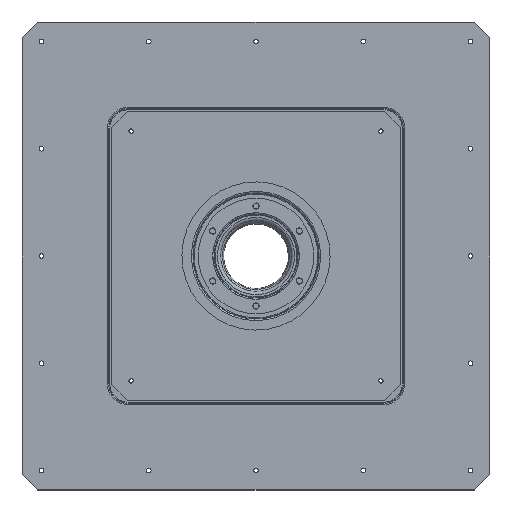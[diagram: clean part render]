
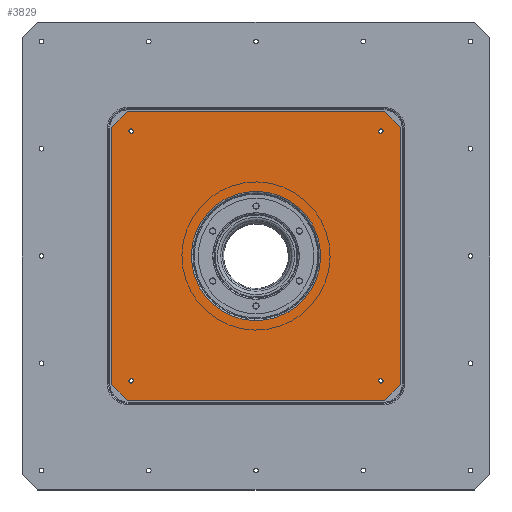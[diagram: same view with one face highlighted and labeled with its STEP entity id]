
A CAD part, top view. The second image highlights one B-rep face of the part: STEP entity #3829.
In plain terms, the highlighted planar face has unit normal (0, 0, 1).
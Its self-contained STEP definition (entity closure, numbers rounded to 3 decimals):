
#197=LINE('',#5661,#341);
#201=LINE('',#5669,#345);
#206=LINE('',#5678,#350);
#209=LINE('',#5684,#353);
#210=LINE('',#5687,#354);
#215=LINE('',#5696,#359);
#218=LINE('',#5702,#362);
#219=LINE('',#5704,#363);
#341=VECTOR('',#4571,330.);
#345=VECTOR('',#4577,28.284);
#350=VECTOR('',#4584,330.);
#353=VECTOR('',#4589,28.284);
#354=VECTOR('',#4592,330.);
#359=VECTOR('',#4599,28.284);
#362=VECTOR('',#4604,330.);
#363=VECTOR('',#4607,28.284);
#499=PLANE('',#4154);
#638=FACE_BOUND('',#1193,.T.);
#639=FACE_BOUND('',#1194,.T.);
#640=FACE_BOUND('',#1195,.T.);
#641=FACE_BOUND('',#1196,.T.);
#642=FACE_BOUND('',#1197,.T.);
#897=FACE_OUTER_BOUND('',#1192,.T.);
#1192=EDGE_LOOP('',(#2755,#2756,#2757,#2758,#2759,#2760,#2761,#2762));
#1193=EDGE_LOOP('',(#2763));
#1194=EDGE_LOOP('',(#2764));
#1195=EDGE_LOOP('',(#2765));
#1196=EDGE_LOOP('',(#2766));
#1197=EDGE_LOOP('',(#2767));
#1642=CIRCLE('',#4085,82.824);
#1646=CIRCLE('',#4099,3.);
#1648=CIRCLE('',#4102,3.);
#1650=CIRCLE('',#4105,3.);
#1652=CIRCLE('',#4108,3.);
#1880=VERTEX_POINT('',#5651);
#1883=VERTEX_POINT('',#5659);
#1884=VERTEX_POINT('',#5660);
#1887=VERTEX_POINT('',#5668);
#1890=VERTEX_POINT('',#5676);
#1892=VERTEX_POINT('',#5682);
#1893=VERTEX_POINT('',#5686);
#1896=VERTEX_POINT('',#5694);
#1898=VERTEX_POINT('',#5700);
#1900=VERTEX_POINT('',#5709);
#1902=VERTEX_POINT('',#5714);
#1904=VERTEX_POINT('',#5719);
#1906=VERTEX_POINT('',#5724);
#2226=EDGE_CURVE('',#1880,#1880,#1642,.T.);
#2229=EDGE_CURVE('',#1883,#1884,#197,.T.);
#2233=EDGE_CURVE('',#1884,#1887,#201,.T.);
#2238=EDGE_CURVE('',#1887,#1890,#206,.T.);
#2241=EDGE_CURVE('',#1890,#1892,#209,.T.);
#2242=EDGE_CURVE('',#1892,#1893,#210,.T.);
#2247=EDGE_CURVE('',#1893,#1896,#215,.T.);
#2250=EDGE_CURVE('',#1896,#1898,#218,.T.);
#2251=EDGE_CURVE('',#1898,#1883,#219,.T.);
#2254=EDGE_CURVE('',#1900,#1900,#1646,.T.);
#2256=EDGE_CURVE('',#1902,#1902,#1648,.T.);
#2258=EDGE_CURVE('',#1904,#1904,#1650,.T.);
#2260=EDGE_CURVE('',#1906,#1906,#1652,.T.);
#2755=ORIENTED_EDGE('',*,*,#2229,.T.);
#2756=ORIENTED_EDGE('',*,*,#2233,.T.);
#2757=ORIENTED_EDGE('',*,*,#2238,.T.);
#2758=ORIENTED_EDGE('',*,*,#2241,.T.);
#2759=ORIENTED_EDGE('',*,*,#2242,.T.);
#2760=ORIENTED_EDGE('',*,*,#2247,.T.);
#2761=ORIENTED_EDGE('',*,*,#2250,.T.);
#2762=ORIENTED_EDGE('',*,*,#2251,.T.);
#2763=ORIENTED_EDGE('',*,*,#2260,.F.);
#2764=ORIENTED_EDGE('',*,*,#2258,.F.);
#2765=ORIENTED_EDGE('',*,*,#2256,.F.);
#2766=ORIENTED_EDGE('',*,*,#2254,.F.);
#2767=ORIENTED_EDGE('',*,*,#2226,.F.);
#3829=ADVANCED_FACE('',(#897,#638,#639,#640,#641,#642),#499,.T.);
#4085=AXIS2_PLACEMENT_3D('',#5652,#4561,#4562);
#4099=AXIS2_PLACEMENT_3D('',#5710,#4613,#4614);
#4102=AXIS2_PLACEMENT_3D('',#5715,#4619,#4620);
#4105=AXIS2_PLACEMENT_3D('',#5720,#4625,#4626);
#4108=AXIS2_PLACEMENT_3D('',#5725,#4631,#4632);
#4154=AXIS2_PLACEMENT_3D('',#5796,#4723,#4724);
#4561=DIRECTION('center_axis',(0.,0.,
1.));
#4562=DIRECTION('ref_axis',(-0.479,0.878,0.));
#4571=DIRECTION('',(-1.,0.,0.));
#4577=DIRECTION('',(-0.707,-0.707,0.));
#4584=DIRECTION('',(0.,-1.,0.));
#4589=DIRECTION('',(0.707,-0.707,0.));
#4592=DIRECTION('',(1.,0.,0.));
#4599=DIRECTION('',(0.707,0.707,0.));
#4604=DIRECTION('',(0.,1.,0.));
#4607=DIRECTION('',(-0.707,0.707,0.));
#4613=DIRECTION('center_axis',(0.,0.,
1.));
#4614=DIRECTION('ref_axis',(1.,0.,0.));
#4619=DIRECTION('center_axis',(0.,0.,
1.));
#4620=DIRECTION('ref_axis',(1.,0.,0.));
#4625=DIRECTION('center_axis',(0.,0.,
1.));
#4626=DIRECTION('ref_axis',(1.,0.,0.));
#4631=DIRECTION('center_axis',(0.,0.,
1.));
#4632=DIRECTION('ref_axis',(1.,0.,0.));
#4723=DIRECTION('center_axis',(0.,0.,
1.));
#4724=DIRECTION('ref_axis',(1.,0.,0.));
#5651=CARTESIAN_POINT('',(-39.708,72.685,0.));
#5652=CARTESIAN_POINT('Origin',(0.,0.,
0.));
#5659=CARTESIAN_POINT('',(165.,185.,0.));
#5660=CARTESIAN_POINT('',(-165.,185.,0.));
#5661=CARTESIAN_POINT('',(165.,185.,0.));
#5668=CARTESIAN_POINT('',(-185.,165.,0.));
#5669=CARTESIAN_POINT('',(-165.,185.,0.));
#5676=CARTESIAN_POINT('',(-185.,-165.,0.));
#5678=CARTESIAN_POINT('',(-185.,165.,0.));
#5682=CARTESIAN_POINT('',(-165.,-185.,0.));
#5684=CARTESIAN_POINT('',(-185.,-165.,0.));
#5686=CARTESIAN_POINT('',(165.,-185.,0.));
#5687=CARTESIAN_POINT('',(-165.,-185.,0.));
#5694=CARTESIAN_POINT('',(185.,-165.,0.));
#5696=CARTESIAN_POINT('',(165.,-185.,0.));
#5700=CARTESIAN_POINT('',(185.,165.,0.));
#5702=CARTESIAN_POINT('',(185.,-165.,0.));
#5704=CARTESIAN_POINT('',(185.,165.,0.));
#5709=CARTESIAN_POINT('',(-163.,-160.,0.));
#5710=CARTESIAN_POINT('Origin',(-160.,-160.,0.));
#5714=CARTESIAN_POINT('',(-163.,160.,0.));
#5715=CARTESIAN_POINT('Origin',(-160.,160.,0.));
#5719=CARTESIAN_POINT('',(157.,160.,0.));
#5720=CARTESIAN_POINT('Origin',(160.,160.,0.));
#5724=CARTESIAN_POINT('',(157.,-160.,0.));
#5725=CARTESIAN_POINT('Origin',(160.,-160.,0.));
#5796=CARTESIAN_POINT('Origin',(0.,82.824,
0.));
